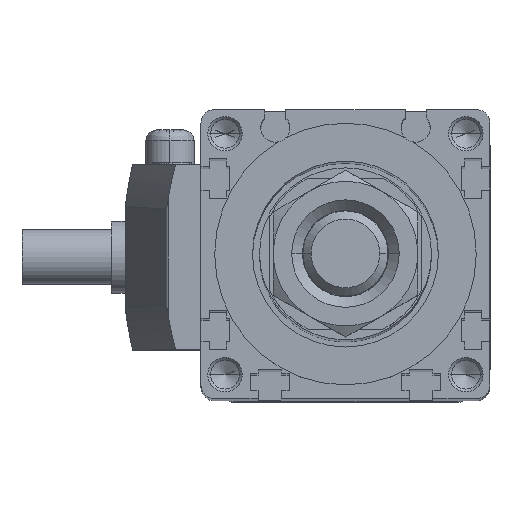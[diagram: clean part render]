
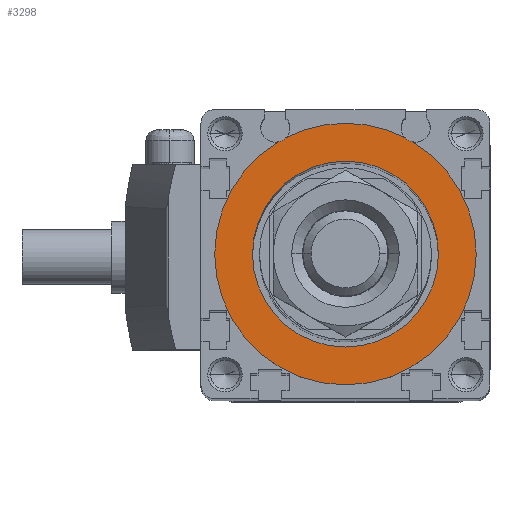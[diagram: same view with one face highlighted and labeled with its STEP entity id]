
A CAD part, top view. The second image highlights one B-rep face of the part: STEP entity #3298.
In plain terms, the highlighted planar face has unit normal (0, 0, 1).
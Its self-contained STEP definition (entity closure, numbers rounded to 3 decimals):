
#1226 = VERTEX_POINT ( 'NONE', #10121 ) ;
#1229 = VERTEX_POINT ( 'NONE', #10148 ) ;
#1235 = EDGE_CURVE ( 'NONE', #1229, #1226, #10139, .T. ) ;
#3182 = ORIENTED_EDGE ( 'NONE', *, *, #3275, .T. ) ;
#3275 = EDGE_CURVE ( 'NONE', #1226, #1229, #11871, .T. ) ;
#3298 = ADVANCED_FACE ( 'NONE', ( #11905, #11943 ), #11919, .T. ) ;
#3330 = EDGE_LOOP ( 'NONE', ( #3182, #6532 ) ) ;
#5029 = VERTEX_POINT ( 'NONE', #15151 ) ;
#5096 = EDGE_CURVE ( 'NONE', #5113, #5102, #15340, .T. ) ;
#5102 = VERTEX_POINT ( 'NONE', #15283 ) ;
#5113 = VERTEX_POINT ( 'NONE', #15369 ) ;
#5417 = EDGE_CURVE ( 'NONE', #5113, #5029, #15851, .T. ) ;
#5803 = VERTEX_POINT ( 'NONE', #16746 ) ;
#5813 = EDGE_CURVE ( 'NONE', #5871, #5803, #16719, .T. ) ;
#5871 = VERTEX_POINT ( 'NONE', #16927 ) ;
#6006 = VERTEX_POINT ( 'NONE', #17122 ) ;
#6034 = EDGE_CURVE ( 'NONE', #5029, #6006, #17197, .T. ) ;
#6382 = ORIENTED_EDGE ( 'NONE', *, *, #6463, .T. ) ;
#6462 = EDGE_LOOP ( 'NONE', ( #6468, #6480, #6485, #6486, #6467, #6382 ) ) ;
#6463 = EDGE_CURVE ( 'NONE', #6006, #5803, #17795, .T. ) ;
#6467 = ORIENTED_EDGE ( 'NONE', *, *, #6034, .T. ) ;
#6468 = ORIENTED_EDGE ( 'NONE', *, *, #5813, .F. ) ;
#6480 = ORIENTED_EDGE ( 'NONE', *, *, #6533, .T. ) ;
#6485 = ORIENTED_EDGE ( 'NONE', *, *, #5096, .F. ) ;
#6486 = ORIENTED_EDGE ( 'NONE', *, *, #5417, .T. ) ;
#6532 = ORIENTED_EDGE ( 'NONE', *, *, #1235, .T. ) ;
#6533 = EDGE_CURVE ( 'NONE', #5871, #5102, #18043, .T. ) ;
#10121 = CARTESIAN_POINT ( 'NONE',  ( -13.5, 0., 178.6 ) ) ;
#10131 = DIRECTION ( 'NONE',  ( 1., 0., 0. ) ) ;
#10132 = DIRECTION ( 'NONE',  ( 0., 0., -1. ) ) ;
#10133 = CARTESIAN_POINT ( 'NONE',  ( 0., 0., 178.6 ) ) ;
#10134 = AXIS2_PLACEMENT_3D ( 'NONE', #10133, #10132, #10131 ) ;
#10139 = CIRCLE ( 'NONE', #10134, 13.5 ) ;
#10148 = CARTESIAN_POINT ( 'NONE',  ( 13.5, 0., 178.6 ) ) ;
#11853 = DIRECTION ( 'NONE',  ( 1., 0., 0. ) ) ;
#11854 = DIRECTION ( 'NONE',  ( 0., 0., -1. ) ) ;
#11855 = CARTESIAN_POINT ( 'NONE',  ( 0., 0., 178.6 ) ) ;
#11864 = AXIS2_PLACEMENT_3D ( 'NONE', #11855, #11854, #11853 ) ;
#11871 = CIRCLE ( 'NONE', #11864, 13.5 ) ;
#11904 = AXIS2_PLACEMENT_3D ( 'NONE', #11912, #11944, #11921 ) ;
#11905 = FACE_BOUND ( 'NONE', #3330, .T. ) ;
#11912 = CARTESIAN_POINT ( 'NONE',  ( -21., 21., 178.6 ) ) ;
#11919 = PLANE ( 'NONE',  #11904 ) ;
#11921 = DIRECTION ( 'NONE',  ( 1., 0., 0. ) ) ;
#11943 = FACE_OUTER_BOUND ( 'NONE', #6462, .T. ) ;
#11944 = DIRECTION ( 'NONE',  ( 0., 0., 1. ) ) ;
#15151 = CARTESIAN_POINT ( 'NONE',  ( -19., 0., 178.6 ) ) ;
#15283 = CARTESIAN_POINT ( 'NONE',  ( -8.708, 16.887, 178.6 ) ) ;
#15307 = DIRECTION ( 'NONE',  ( 0., 0., 1. ) ) ;
#15310 = DIRECTION ( 'NONE',  ( 1., 0., 0. ) ) ;
#15312 = CARTESIAN_POINT ( 'NONE',  ( -10.2, 18.4, 178.6 ) ) ;
#15340 = CIRCLE ( 'NONE', #15341, 2.125 ) ;
#15341 = AXIS2_PLACEMENT_3D ( 'NONE', #15312, #15307, #15310 ) ;
#15369 = CARTESIAN_POINT ( 'NONE',  ( -9.708, 16.333, 178.6 ) ) ;
#15846 = DIRECTION ( 'NONE',  ( 1., 0., 0. ) ) ;
#15847 = DIRECTION ( 'NONE',  ( 0., 0., 1. ) ) ;
#15848 = CARTESIAN_POINT ( 'NONE',  ( 0., 0., 178.6 ) ) ;
#15849 = AXIS2_PLACEMENT_3D ( 'NONE', #15848, #15847, #15846 ) ;
#15851 = CIRCLE ( 'NONE', #15849, 19. ) ;
#16710 = DIRECTION ( 'NONE',  ( 0., 0., 1. ) ) ;
#16717 = CARTESIAN_POINT ( 'NONE',  ( 10.2, 18.4, 178.6 ) ) ;
#16719 = CIRCLE ( 'NONE', #16781, 2.125 ) ;
#16746 = CARTESIAN_POINT ( 'NONE',  ( 9.708, 16.333, 178.6 ) ) ;
#16780 = DIRECTION ( 'NONE',  ( 1., 0., 0. ) ) ;
#16781 = AXIS2_PLACEMENT_3D ( 'NONE', #16717, #16710, #16780 ) ;
#16927 = CARTESIAN_POINT ( 'NONE',  ( 8.708, 16.887, 178.6 ) ) ;
#17122 = CARTESIAN_POINT ( 'NONE',  ( 19., 0., 178.6 ) ) ;
#17194 = DIRECTION ( 'NONE',  ( 1., 0., 0. ) ) ;
#17195 = DIRECTION ( 'NONE',  ( 0., 0., 1. ) ) ;
#17196 = AXIS2_PLACEMENT_3D ( 'NONE', #17231, #17195, #17194 ) ;
#17197 = CIRCLE ( 'NONE', #17196, 19. ) ;
#17231 = CARTESIAN_POINT ( 'NONE',  ( 0., 0., 178.6 ) ) ;
#17795 = CIRCLE ( 'NONE', #17923, 19. ) ;
#17883 = DIRECTION ( 'NONE',  ( 1., 0., 0. ) ) ;
#17884 = DIRECTION ( 'NONE',  ( 0., 0., 1. ) ) ;
#17885 = CARTESIAN_POINT ( 'NONE',  ( 0., 0., 178.6 ) ) ;
#17923 = AXIS2_PLACEMENT_3D ( 'NONE', #17885, #17884, #17883 ) ;
#17967 = CARTESIAN_POINT ( 'NONE',  ( 0., 0., 178.6 ) ) ;
#17968 = AXIS2_PLACEMENT_3D ( 'NONE', #17967, #18039, #17977 ) ;
#17977 = DIRECTION ( 'NONE',  ( 1., 0., 0. ) ) ;
#18039 = DIRECTION ( 'NONE',  ( 0., 0., 1. ) ) ;
#18043 = CIRCLE ( 'NONE', #17968, 19. ) ;
